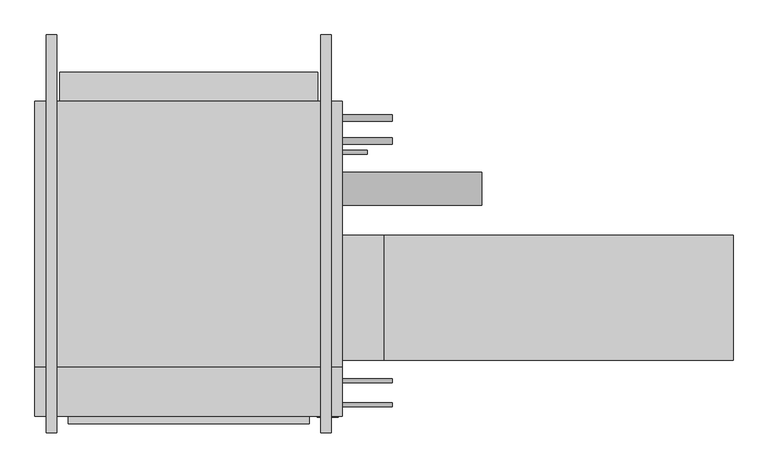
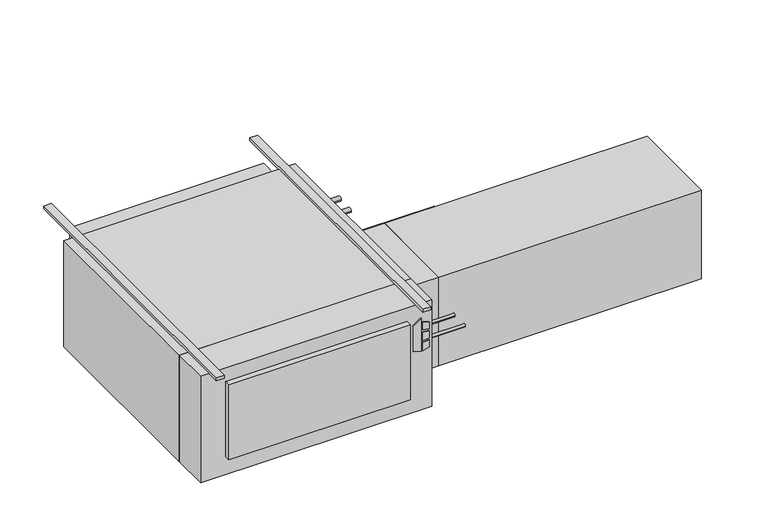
"""IFC4 building model written with IfcOpenShell, lengths in millimetres: proxy geometry."""

from ifc_helpers import new_model, si_unit, point, frame, frame_2d, origin, origin_with_axes, place, context, project, spatial, polyline, circle_curve, trimmed, segment, composite_curve, outline, extrude, source, transform, mapped, element, save


def mechanical_equipment_74373646(model_context):
    return source(origin(), model_context, "Body", "SweptSolid", [
        extrude(outline(polyline([(-193.2519297, 544.5868862), (-203.2, 576.7602728), (-61.0290756, 576.7602728), (-84.0510817, 544.5868862), (-193.2519297, 544.5868862)])), frame((0.0, -797.052, 0.0), z_axis=(0.0, 1.0, 0.0), x_axis=(0.0, 0.0, 1.0)), (0.0, 0.0, 1.0), 3.175),
        extrude(outline(polyline([(-114.2526443, 583.5186058), (-117.4550368, 609.6), (-88.2261958, 609.6), (-80.1617807, 583.5186058), (-114.2526443, 583.5186058)])), frame((0.0, -797.052, 0.0), z_axis=(0.0, 1.0, 0.0), x_axis=(0.0, 0.0, 1.0)), (0.0, 0.0, 1.0), 3.175),
        extrude(outline(polyline([(-166.1161712, 609.6), (-169.7816721, 583.5186058), (-203.2, 583.5186058), (-194.5657628, 609.6), (-166.1161712, 609.6)])), frame((0.0, -797.052, 0.0), z_axis=(0.0, 1.0, 0.0), x_axis=(0.0, 0.0, 1.0)), (0.0, 0.0, 1.0), 3.175),
        extrude(outline(polyline([(-126.8010097, 609.6), (-124.5191834, 583.5186058), (-160.4567319, 583.5186058), (-157.7154669, 609.6), (-126.8010097, 609.6)])), frame((0.0, -797.052, 0.0), z_axis=(0.0, 1.0, 0.0), x_axis=(0.0, 0.0, 1.0)), (0.0, 0.0, 1.0), 3.175),
        extrude(outline(polyline([(622.3, -793.877), (-317.5, -793.877), (-317.5, -644.525), (622.3, -644.525), (622.3, -793.877)])), frame((0.0, 0.0, -457.2), z_axis=(0.0, 0.0, 1.0), x_axis=(1.0, 0.0, 0.0)), (0.0, 0.0, 1.0), 457.2),
        extrude(outline(polyline([(520.7, -816.229), (-215.9, -816.229), (-215.9, -793.877), (520.7, -793.877), (520.7, -816.229)])), frame((0.0, 0.0, -381.0), z_axis=(0.0, 0.0, 1.0), x_axis=(1.0, 0.0, 0.0)), (0.0, 0.0, 1.0), 323.85),
        extrude(outline(polyline([(1816.1, -241.3), (1816.1, -622.3), (749.3, -622.3), (749.3, -241.3), (1816.1, -241.3)])), frame((0.0, 0.0, -431.8), z_axis=(0.0, 0.0, 1.0), x_axis=(1.0, 0.0, 0.0)), (0.0, 0.0, 1.0), 381.0),
        extrude(outline(polyline([(749.3, -241.3), (749.3, -622.3), (622.3, -622.3), (622.3, -241.3), (749.3, -241.3)])), frame((0.0, 0.0, -431.8), z_axis=(0.0, 0.0, 1.0), x_axis=(1.0, 0.0, 0.0)), (0.0, 0.0, 1.0), 381.0),
        extrude(outline(composite_curve([segment(trimmed(circle_curve(frame_2d((-758.825, -184.15)), 6.35), [point((-752.475, -184.15))], [point((-765.175, -184.15))], False, "CARTESIAN"), True, "CONTINUOUS"), segment(trimmed(circle_curve(frame_2d((-758.825, -184.15)), 6.35), [point((-765.175, -184.15))], [point((-752.475, -184.15))], False, "CARTESIAN"), True, "CONTINUOUS")], self_intersect=False)), frame((622.3, 0.0, 0.0), z_axis=(1.0, 0.0, 0.0), x_axis=(0.0, 1.0, 0.0)), (0.0, 0.0, 1.0), 152.4),
        extrude(outline(composite_curve([segment(trimmed(circle_curve(frame_2d((-685.8, -184.15)), 6.35), [point((-679.45, -184.15))], [point((-692.15, -184.15))], False, "CARTESIAN"), True, "CONTINUOUS"), segment(trimmed(circle_curve(frame_2d((-685.8, -184.15)), 6.35), [point((-692.15, -184.15))], [point((-679.45, -184.15))], False, "CARTESIAN"), True, "CONTINUOUS")], self_intersect=False)), frame((622.3, 0.0, 0.0), z_axis=(1.0, 0.0, 0.0), x_axis=(0.0, 1.0, 0.0)), (0.0, 0.0, 1.0), 152.4),
        extrude(outline(composite_curve([segment(trimmed(circle_curve(frame_2d((117.475, -171.45)), 9.525), [point((127.0, -171.45))], [point((107.95, -171.45))], False, "CARTESIAN"), True, "CONTINUOUS"), segment(trimmed(circle_curve(frame_2d((117.475, -171.45)), 9.525), [point((107.95, -171.45))], [point((127.0, -171.45))], False, "CARTESIAN"), True, "CONTINUOUS")], self_intersect=False)), frame((622.3, 0.0, 0.0), z_axis=(1.0, 0.0, 0.0), x_axis=(0.0, 1.0, 0.0)), (0.0, 0.0, 1.0), 152.4),
        extrude(outline(composite_curve([segment(trimmed(circle_curve(frame_2d((47.625, -177.8)), 9.525), [point((57.15, -177.8))], [point((38.1, -177.8))], False, "CARTESIAN"), True, "CONTINUOUS"), segment(trimmed(circle_curve(frame_2d((47.625, -177.8)), 9.525), [point((38.1, -177.8))], [point((57.15, -177.8))], False, "CARTESIAN"), True, "CONTINUOUS")], self_intersect=False)), frame((622.3, 0.0, 0.0), z_axis=(1.0, 0.0, 0.0), x_axis=(0.0, 1.0, 0.0)), (0.0, 0.0, 1.0), 152.4),
        extrude(outline(composite_curve([segment(trimmed(circle_curve(frame_2d((-98.4896516, -228.6360165)), 50.8), [point((-47.6896516, -228.6360165))], [point((-149.2896516, -228.6360165))], False, "CARTESIAN"), True, "CONTINUOUS"), segment(trimmed(circle_curve(frame_2d((-98.4896516, -228.6360165)), 50.8), [point((-149.2896516, -228.6360165))], [point((-47.6896516, -228.6360165))], False, "CARTESIAN"), True, "CONTINUOUS")], self_intersect=False)), frame((622.3, 0.0, 0.0), z_axis=(1.0, 0.0, 0.0), x_axis=(0.0, 1.0, 0.0)), (0.0, 0.0, 1.0), 425.45),
        extrude(outline(composite_curve([segment(trimmed(circle_curve(frame_2d((12.7, -409.575)), 6.35), [point((19.05, -409.575))], [point((6.35, -409.575))], False, "CARTESIAN"), True, "CONTINUOUS"), segment(trimmed(circle_curve(frame_2d((12.7, -409.575)), 6.35), [point((6.35, -409.575))], [point((19.05, -409.575))], False, "CARTESIAN"), True, "CONTINUOUS")], self_intersect=False)), frame((622.3, 0.0, 0.0), z_axis=(1.0, 0.0, 0.0), x_axis=(0.0, 1.0, 0.0)), (0.0, 0.0, 1.0), 76.2),
        extrude(outline(polyline([(622.3, 168.275), (622.3, -644.525), (-317.5, -644.525), (-317.5, 168.275), (622.3, 168.275)])), frame((0.0, 0.0, -457.2), z_axis=(0.0, 0.0, 1.0), x_axis=(1.0, 0.0, 0.0)), (0.0, 0.0, 1.0), 457.2),
        extrude(outline(polyline([(-241.3, 257.175), (546.1, 257.175), (546.1, 168.275), (-241.3, 168.275), (-241.3, 257.175)])), frame((0.0, 0.0, -381.0), z_axis=(0.0, 0.0, 1.0), x_axis=(1.0, 0.0, 0.0)), (0.0, 0.0, 1.0), 355.6),
        extrude(outline(polyline([(-250.825, 371.475), (-250.825, -844.677), (-282.575, -844.677), (-282.575, 371.475), (-250.825, 371.475)])), origin_with_axes(), (0.0, 0.0, 1.0), 12.7),
        extrude(outline(polyline([(587.375, 371.475), (587.375, -844.677), (555.625, -844.677), (555.625, 371.475), (587.375, 371.475)])), origin_with_axes(), (0.0, 0.0, 1.0), 12.7),
    ])


if __name__ == "__main__":
    model = new_model("IFC4")
    model_context = context("Model", 3, world=origin())
    ifc_project = project(units=[si_unit("LENGTHUNIT", "METRE", prefix="MILLI")], contexts=[model_context])
    site = spatial("IfcSite", under=ifc_project)
    building = spatial("IfcBuilding", under=site)
    placement = place(None, origin())
    mechanical_equipment_shape = mechanical_equipment_74373646(model_context)
    element("IfcBuildingElementProxy", 1, Name="High_Capacity_Horizontal_Cabinet_Fan_Coil_Unit_-_HTY_-_IEC_-_4-Pipe_WO-Attenuator_RH Side_2022 : Size 12 - 115v/60Hz/1Ph - 4/1 Coil - 4\" AirIn", ObjectType="High_Capacity_Horizontal_Cabinet_Fan_Coil_Unit_-_HTY_-_IEC_-_4-Pipe_WO-Attenuator_RH Side_2022 : Size 12 - 115v/60Hz/1Ph - 4/1 Coil - 4\" AirIn", at=placement, inside=building, context=model_context, shape_type="MappedRepresentation", body=[
        mapped(mechanical_equipment_shape, transform((0.0, 0.0, 0.0), x_axis=(1.0, 0.0, 0.0), y_axis=(0.0, 1.0, 0.0), z_axis=(0.0, 0.0, 1.0))),
    ])
    save(model, "model.ifc")
